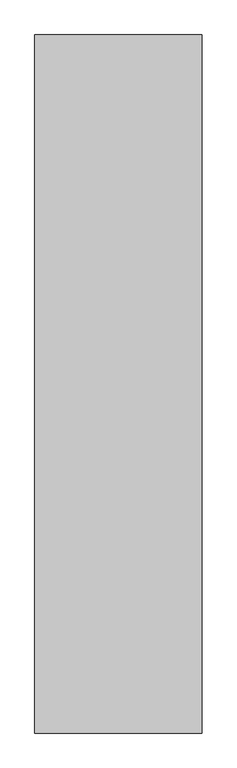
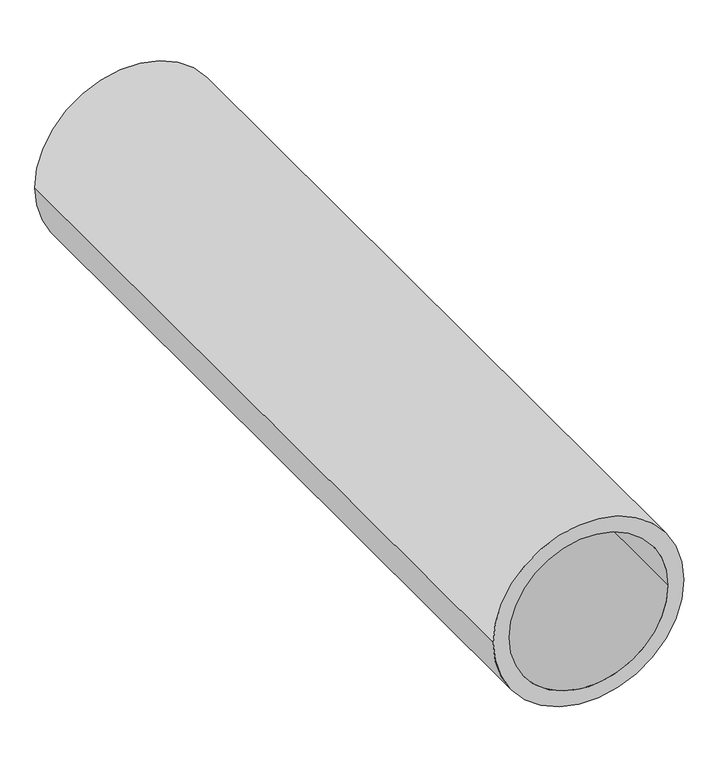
"""IFC4 building model written with IfcOpenShell, lengths in millimetres: proxy geometry, Fluchtröhre : Fluchtröhre."""

from ifc_helpers import new_model, si_unit, point, frame, frame_2d, origin, place, context, project, spatial, circle_curve, trimmed, segment, composite_curve, outline, extrude, source, transform, mapped, element, save


def generic_models_26918fe7(model_context):
    return source(origin(), model_context, "Body", "SweptSolid", [
        extrude(outline(composite_curve([segment(trimmed(circle_curve(frame_2d((-3625.0, 0.0)), 600.0), [point((-3625.0, -600.0))], [point((-3625.0, 600.0))], False, "CARTESIAN"), True, "CONTINUOUS"), segment(trimmed(circle_curve(frame_2d((-3625.0, 0.0)), 600.0), [point((-3625.0, 600.0))], [point((-3625.0, -600.0))], False, "CARTESIAN"), True, "CONTINUOUS")], self_intersect=False), holes=[composite_curve([segment(trimmed(circle_curve(frame_2d((-3625.0, 0.0)), 500.0), [point((-3625.0, -500.0))], [point((-3625.0, 500.0))], True, "CARTESIAN"), True, "CONTINUOUS"), segment(trimmed(circle_curve(frame_2d((-3625.0, 0.0)), 500.0), [point((-3625.0, 500.0))], [point((-3625.0, -500.0))], True, "CARTESIAN"), True, "CONTINUOUS")], self_intersect=False)]), frame((0.0, 700.0, 0.0), z_axis=(0.0, 1.0, 0.0), x_axis=(0.0, 0.0, 1.0)), (0.0, 0.0, 1.0), 5000.0),
    ])


if __name__ == "__main__":
    model = new_model("IFC4")
    model_context = context("Model", 3, world=origin())
    ifc_project = project(units=[si_unit("LENGTHUNIT", "METRE", prefix="MILLI")], contexts=[model_context])
    site = spatial("IfcSite", under=ifc_project)
    building = spatial("IfcBuilding", under=site)
    placement = place(None, origin())
    generic_models_shape = generic_models_26918fe7(model_context)
    element("IfcBuildingElementProxy", 1, Name="Fluchtröhre : Fluchtröhre", ObjectType="Fluchtröhre : Fluchtröhre", at=placement, inside=building, context=model_context, shape_type="MappedRepresentation", body=[
        mapped(generic_models_shape, transform((0.0, 0.0, 0.0), x_axis=(1.0, 0.0, 0.0), y_axis=(0.0, 1.0, 0.0), z_axis=(0.0, 0.0, 1.0))),
    ])
    save(model, "model.ifc")
